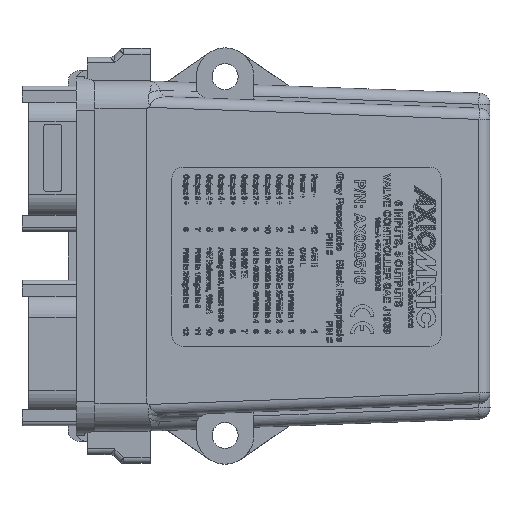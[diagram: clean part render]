
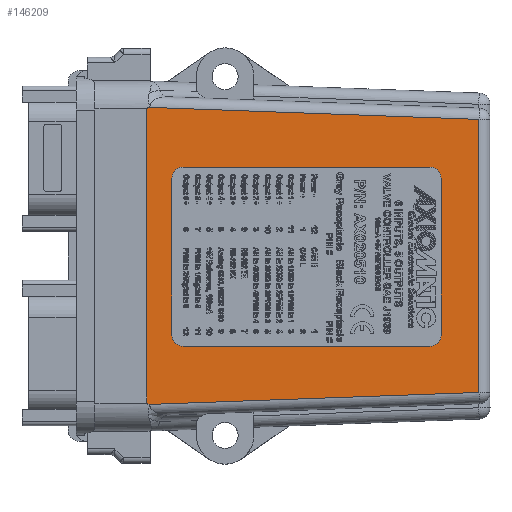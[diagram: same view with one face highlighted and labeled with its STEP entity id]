
A CAD part, top view. The second image highlights one B-rep face of the part: STEP entity #146209.
In plain terms, the highlighted planar face has unit normal (0.019, 0, 1).
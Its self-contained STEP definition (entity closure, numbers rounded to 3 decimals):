
#1067=FACE_BOUND('',#23933,.T.);
#1068=FACE_BOUND('',#23934,.T.);
#3632=ELLIPSE('',#151872,16.587,0.312);
#3634=ELLIPSE('',#151879,16.587,0.312);
#8410=PLANE('',#151878);
#23933=EDGE_LOOP('',(#130196,#130197,#130198,#130199,#130200,#130201,#130202,
#130203));
#23934=EDGE_LOOP('',(#130204,#130205,#130206,#130207,#130208,#130209,#130210,
#130211));
#29067=B_SPLINE_CURVE_WITH_KNOTS('',3,(#247335,#247336,#247337,#247338,
#247339,#247340,#247341),.UNSPECIFIED.,.F.,.F.,(4,3,4),(-0.001,
0.,0.011),.UNSPECIFIED.);
#29071=B_SPLINE_CURVE_WITH_KNOTS('',3,(#247410,#247411,#247412,#247413,
#247414,#247415),.UNSPECIFIED.,.F.,.F.,(4,2,4),(0.426,0.443,
0.445),.UNSPECIFIED.);
#29592=CIRCLE('',#151085,0.125);
#29593=CIRCLE('',#151088,0.125);
#29594=CIRCLE('',#151091,0.125);
#29595=CIRCLE('',#151094,0.125);
#42107=LINE('',#239324,#56424);
#42110=LINE('',#239332,#56427);
#42113=LINE('',#239340,#56430);
#42116=LINE('',#239347,#56433);
#43614=LINE('',#247248,#57931);
#43615=LINE('',#247254,#57932);
#43621=LINE('',#247289,#57938);
#43631=LINE('',#247409,#57948);
#56424=VECTOR('',#173606,2.75);
#56427=VECTOR('',#173615,1.75);
#56430=VECTOR('',#173624,2.75);
#56433=VECTOR('',#173633,1.75);
#57931=VECTOR('',#176607,3.673);
#57932=VECTOR('',#176612,3.673);
#57938=VECTOR('',#176670,3.044);
#57948=VECTOR('',#176716,3.28);
#69825=VERTEX_POINT('',#239317);
#69826=VERTEX_POINT('',#239319);
#69827=VERTEX_POINT('',#239323);
#69828=VERTEX_POINT('',#239327);
#69829=VERTEX_POINT('',#239331);
#69830=VERTEX_POINT('',#239335);
#69831=VERTEX_POINT('',#239339);
#69832=VERTEX_POINT('',#239343);
#71320=VERTEX_POINT('',#247244);
#71321=VERTEX_POINT('',#247246);
#71322=VERTEX_POINT('',#247250);
#71324=VERTEX_POINT('',#247253);
#71330=VERTEX_POINT('',#247334);
#71335=VERTEX_POINT('',#247383);
#71340=VERTEX_POINT('',#247406);
#71341=VERTEX_POINT('',#247407);
#88791=EDGE_CURVE('',#69826,#69825,#29592,.T.);
#88793=EDGE_CURVE('',#69827,#69826,#42107,.T.);
#88795=EDGE_CURVE('',#69828,#69827,#29593,.T.);
#88797=EDGE_CURVE('',#69829,#69828,#42110,.T.);
#88799=EDGE_CURVE('',#69830,#69829,#29594,.T.);
#88801=EDGE_CURVE('',#69831,#69830,#42113,.T.);
#88803=EDGE_CURVE('',#69832,#69831,#29595,.T.);
#88805=EDGE_CURVE('',#69825,#69832,#42116,.T.);
#91009=EDGE_CURVE('',#71321,#71320,#43614,.T.);
#91011=EDGE_CURVE('',#71322,#71324,#43615,.T.);
#91032=EDGE_CURVE('',#71320,#71322,#43621,.T.);
#91036=EDGE_CURVE('',#71324,#71330,#29067,.T.);
#91043=EDGE_CURVE('',#71330,#71335,#3632,.T.);
#91054=EDGE_CURVE('',#71340,#71341,#3634,.T.);
#91055=EDGE_CURVE('',#71340,#71335,#43631,.T.);
#91056=EDGE_CURVE('',#71321,#71341,#29071,.F.);
#130196=ORIENTED_EDGE('',*,*,#88791,.T.);
#130197=ORIENTED_EDGE('',*,*,#88805,.T.);
#130198=ORIENTED_EDGE('',*,*,#88803,.T.);
#130199=ORIENTED_EDGE('',*,*,#88801,.T.);
#130200=ORIENTED_EDGE('',*,*,#88799,.T.);
#130201=ORIENTED_EDGE('',*,*,#88797,.T.);
#130202=ORIENTED_EDGE('',*,*,#88795,.T.);
#130203=ORIENTED_EDGE('',*,*,#88793,.T.);
#130204=ORIENTED_EDGE('',*,*,#91054,.F.);
#130205=ORIENTED_EDGE('',*,*,#91055,.T.);
#130206=ORIENTED_EDGE('',*,*,#91043,.F.);
#130207=ORIENTED_EDGE('',*,*,#91036,.F.);
#130208=ORIENTED_EDGE('',*,*,#91011,.F.);
#130209=ORIENTED_EDGE('',*,*,#91032,.F.);
#130210=ORIENTED_EDGE('',*,*,#91009,.F.);
#130211=ORIENTED_EDGE('',*,*,#91056,.T.);
#146209=ADVANCED_FACE('',(#1067,#1068),#8410,.F.);
#151085=AXIS2_PLACEMENT_3D('',#239320,#173601,#173602);
#151088=AXIS2_PLACEMENT_3D('',#239328,#173610,#173611);
#151091=AXIS2_PLACEMENT_3D('',#239336,#173619,#173620);
#151094=AXIS2_PLACEMENT_3D('',#239344,#173628,#173629);
#151872=AXIS2_PLACEMENT_3D('',#247384,#176693,#176694);
#151878=AXIS2_PLACEMENT_3D('',#247405,#176712,#176713);
#151879=AXIS2_PLACEMENT_3D('',#247408,#176714,#176715);
#173601=DIRECTION('center_axis',(-0.019,0.,
-1.));
#173602=DIRECTION('ref_axis',(-0.707,-0.707,0.013));
#173606=DIRECTION('',(-1.,0.,0.019));
#173610=DIRECTION('center_axis',(-0.019,0.,
-1.));
#173611=DIRECTION('ref_axis',(0.707,-0.707,-0.013));
#173615=DIRECTION('',(0.,-1.,0.));
#173619=DIRECTION('center_axis',(-0.019,0.,
-1.));
#173620=DIRECTION('ref_axis',(0.707,0.707,-0.013));
#173624=DIRECTION('',(1.,0.,-0.019));
#173628=DIRECTION('center_axis',(-0.019,0.,
-1.));
#173629=DIRECTION('ref_axis',(-0.707,0.707,0.013));
#173633=DIRECTION('',(0.,1.,0.));
#176607=DIRECTION('',(0.999,-0.036,-0.019));
#176612=DIRECTION('',(-0.999,-0.036,0.019));
#176670=DIRECTION('',(0.,-1.,0.));
#176693=DIRECTION('center_axis',(-0.019,0.,
-1.));
#176694=DIRECTION('ref_axis',(-1.,0.,
0.019));
#176712=DIRECTION('center_axis',(-0.019,0.,
-1.));
#176713=DIRECTION('ref_axis',(1.,0.,-0.019));
#176714=DIRECTION('center_axis',(-0.019,0.,
-1.));
#176715=DIRECTION('ref_axis',(-1.,0.,
0.019));
#176716=DIRECTION('',(0.,-1.,0.));
#239317=CARTESIAN_POINT('',(-1.343,-0.885,1.028));
#239319=CARTESIAN_POINT('',(-1.218,-1.01,1.026));
#239320=CARTESIAN_POINT('Origin',(-1.218,-0.885,
1.026));
#239323=CARTESIAN_POINT('',(1.531,-1.01,0.974));
#239324=CARTESIAN_POINT('',(1.929,-1.01,0.967));
#239327=CARTESIAN_POINT('',(1.656,-0.885,0.972));
#239328=CARTESIAN_POINT('Origin',(1.531,-0.885,0.974));
#239331=CARTESIAN_POINT('',(1.656,0.865,0.972));
#239332=CARTESIAN_POINT('',(1.656,0.495,0.972));
#239335=CARTESIAN_POINT('',(1.531,0.99,0.974));
#239336=CARTESIAN_POINT('Origin',(1.531,0.865,0.974));
#239339=CARTESIAN_POINT('',(-1.218,0.99,1.026));
#239340=CARTESIAN_POINT('',(0.429,0.99,0.995));
#239343=CARTESIAN_POINT('',(-1.343,0.865,1.028));
#239344=CARTESIAN_POINT('Origin',(-1.218,0.865,1.026));
#239347=CARTESIAN_POINT('',(-1.343,-0.505,1.028));
#247244=CARTESIAN_POINT('',(2.079,1.522,0.964));
#247246=CARTESIAN_POINT('',(-1.59,1.656,1.033));
#247248=CARTESIAN_POINT('',(1.306,1.55,0.978));
#247250=CARTESIAN_POINT('',(2.079,-1.522,0.964));
#247253=CARTESIAN_POINT('',(-1.59,-1.656,1.033));
#247254=CARTESIAN_POINT('',(1.306,-1.55,0.978));
#247289=CARTESIAN_POINT('',(2.079,0.,0.964));
#247334=CARTESIAN_POINT('',(-1.593,-1.659,1.033));
#247335=CARTESIAN_POINT('Ctrl Pts',(-1.59,-1.656,
1.033));
#247336=CARTESIAN_POINT('Ctrl Pts',(-1.59,-1.656,
1.033));
#247337=CARTESIAN_POINT('Ctrl Pts',(-1.59,-1.656,
1.033));
#247338=CARTESIAN_POINT('Ctrl Pts',(-1.59,-1.656,
1.033));
#247339=CARTESIAN_POINT('Ctrl Pts',(-1.591,-1.657,
1.033));
#247340=CARTESIAN_POINT('Ctrl Pts',(-1.592,-1.658,
1.033));
#247341=CARTESIAN_POINT('Ctrl Pts',(-1.593,-1.659,
1.033));
#247383=CARTESIAN_POINT('',(-1.625,-1.64,1.034));
#247384=CARTESIAN_POINT('Origin',(14.959,-1.64,0.722));
#247405=CARTESIAN_POINT('Origin',(2.202,0.,
0.962));
#247406=CARTESIAN_POINT('',(-1.625,1.64,1.034));
#247407=CARTESIAN_POINT('',(-1.593,1.659,1.033));
#247408=CARTESIAN_POINT('Origin',(14.959,1.64,0.722));
#247409=CARTESIAN_POINT('',(-1.625,0.976,1.034));
#247410=CARTESIAN_POINT('Ctrl Pts',(-1.593,1.659,
1.033));
#247411=CARTESIAN_POINT('Ctrl Pts',(-1.592,1.658,
1.033));
#247412=CARTESIAN_POINT('Ctrl Pts',(-1.591,1.657,
1.033));
#247413=CARTESIAN_POINT('Ctrl Pts',(-1.59,1.656,
1.033));
#247414=CARTESIAN_POINT('Ctrl Pts',(-1.59,1.656,
1.033));
#247415=CARTESIAN_POINT('Ctrl Pts',(-1.59,1.656,
1.033));
